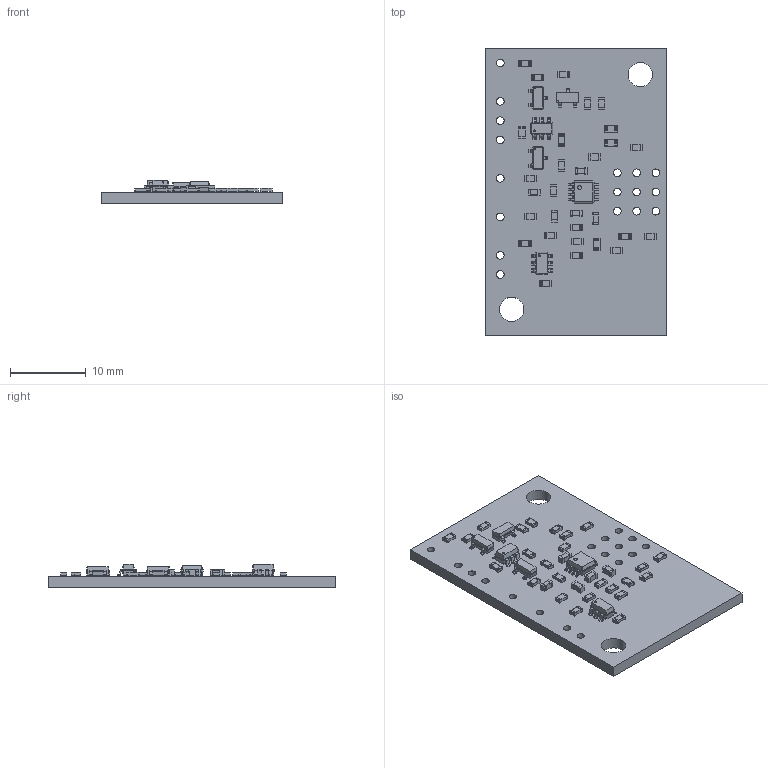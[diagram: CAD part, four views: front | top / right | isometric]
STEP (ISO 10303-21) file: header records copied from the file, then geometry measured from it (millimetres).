
FILE_DESCRIPTION(('KiCad electronic assembly'),'2;1');
FILE_NAME('eib.step','2026-11-17T10:31:35',('Pcbnew'),('Kicad'), 'Open CASCADE STEP processor 7.9','KiCad to STEP converter','Unknown' );
FILE_SCHEMA(('AUTOMOTIVE_DESIGN { 1 0 10303 214 1 1 1 1 }'));
Length unit declared in the file: millimetre
Products named in the file (7): eib 1; R_0603_1608Metric; C_0603_1608Metric; SOT-23; SSOP-8_2.95x2.8mm_P0.65mm; SOT-23-6; eib_PCB
Assembly tree (37 placements, depth 2):
  eib 1
    R_0603_1608Metric  x25
    C_0603_1608Metric  x5
    SOT-23  x3
    SSOP-8_2.95x2.8mm_P0.65mm
    SOT-23-6  x2
    eib_PCB
Bounding box: 24 x 38 x 3.15 mm (x, y, z)
Volume: 1386.8 mm3; surface area: 2362.9 mm2
Topology: 37 solids, 37 shells, 1403 faces, 3663 edges, 2350 vertices
Faces by surface type: plane 912, cylinder 395, bspline 96
Full cylindrical faces by diameter (mm): 1 x17, 3.2 x2
Entity records: 16290 total; most frequent: CARTESIAN_POINT 2443, ORIENTED_EDGE 2172, DIRECTION 2035, EDGE_CURVE 1086, LINE 797, VECTOR 797, VERTEX_POINT 691, AXIS2_PLACEMENT_3D 619
